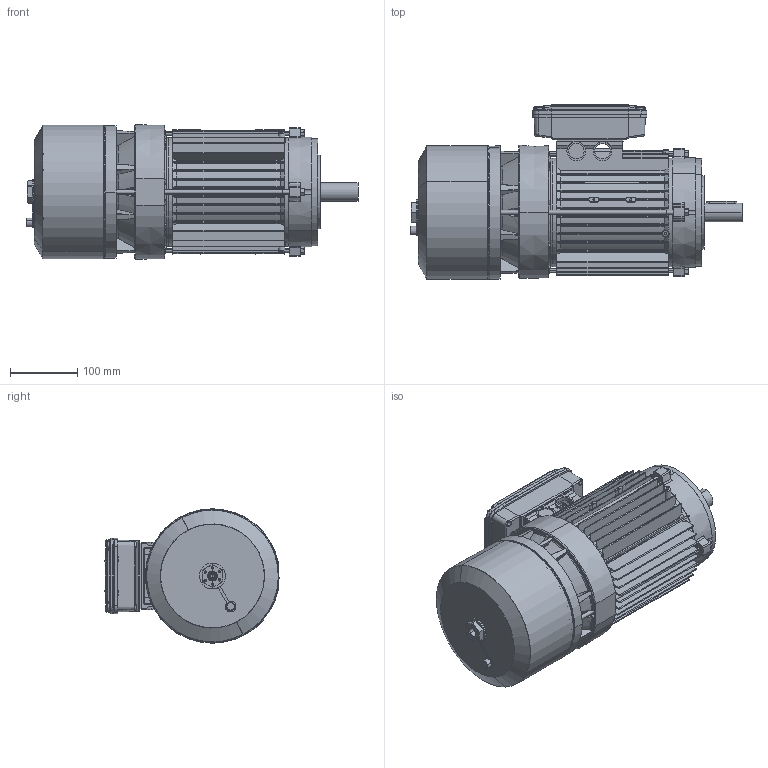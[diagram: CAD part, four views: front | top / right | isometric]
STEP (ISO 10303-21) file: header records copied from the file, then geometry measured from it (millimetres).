
FILE_DESCRIPTION (( 'STEP AP214' ), '1' );
FILE_NAME ('BA 100 B14 - DM.STEP', '2018-09-13T06:50:04', ( '' ), ( '' ), 'SwSTEP 2.0', 'SolidWorks 2018', '' );
FILE_SCHEMA (( 'AUTOMOTIVE_DESIGN' ));
Length unit declared in the file: millimetre
Products named in the file (17): Tirante BA 100 - DBA60094; Scudo a Flangia B14 BA 100 - DEAC0194; Chiavetta 100-112; Cuffia serie BA 100; Convogliatore con pista d''attrito P2 BA 100 - DEAF0295; Scudo Lato Freno BA 100 P1 - DEAE0194; Albero BA 100; Carcassa 100 B5; BA 100 B14 - DM; Dado M6; Scatola per Morsettiera Doppia 90-100-112 - Completa; Guarnizione Coperchio Semplice Scatola BA 90 100 112 - DDAL0094; Vite  a testa bombata M4x16; Coperchio per Scatola per Morsettiera Doppia 90-100-112; Scatola per Morsettiera Doppia 90-100-112; O-ring freno BA 100; Vite a Testa Esagona con foro e tappo 71-112 - Modificata
Assembly tree (25 placements, depth 3):
  BA 100 B14 - DM
    Carcassa 100 B5
    Albero BA 100
    Scudo Lato Freno BA 100 P1 - DEAE0194
    Convogliatore con pista d''attrito P2 BA 100 - DEAF0295
    Cuffia serie BA 100
    Chiavetta 100-112
    Scudo a Flangia B14 BA 100 - DEAC0194
    Tirante BA 100 - DBA60094  x4
    Vite a Testa Esagona con foro e tappo 71-112 - Modificata
    O-ring freno BA 100
    Scatola per Morsettiera Doppia 90-100-112 - Completa
      Scatola per Morsettiera Doppia 90-100-112
      Coperchio per Scatola per Morsettiera Doppia 90-100-112
      Vite  a testa bombata M4x16  x4
      Guarnizione Coperchio Semplice Scatola BA 90 100 112 - DDAL0094
    Dado M6  x4
Bounding box: 494 x 259.12 x 199.95 mm (x, y, z)
Volume: 2280190.4 mm3; surface area: 1204831.1 mm2
Topology: 28 solids, 28 shells, 3285 faces, 8844 edges, 5611 vertices
Faces by surface type: cylinder 1141, plane 1094, torus 463, cone 342, bspline 237, sphere 8
Entity records: 111178 total; most frequent: CARTESIAN_POINT 37594, ORIENTED_EDGE 16088, DIRECTION 14535, EDGE_CURVE 8044, AXIS2_PLACEMENT_3D 5593, VERTEX_POINT 5155, VECTOR 3349, LINE 3349
